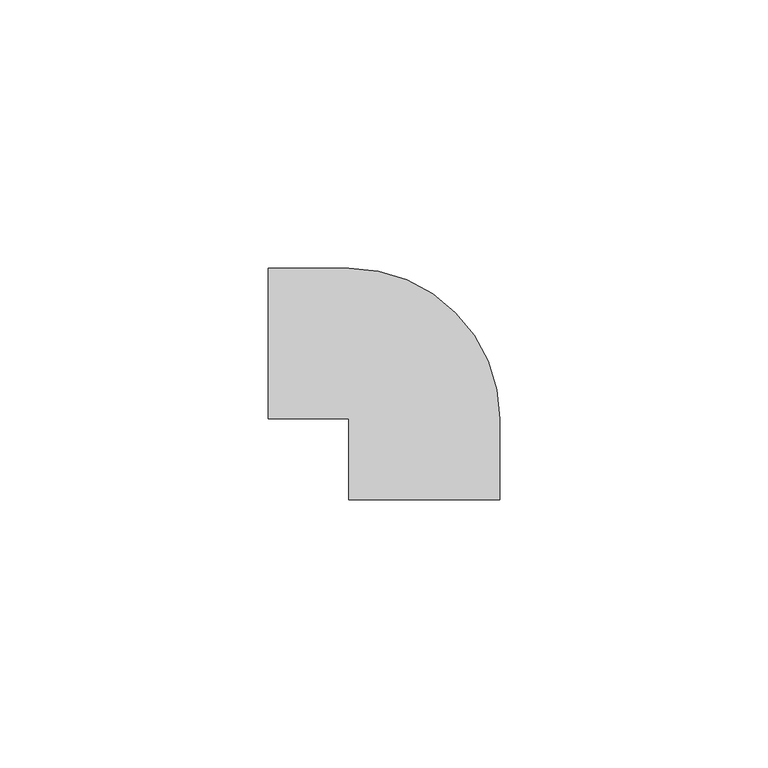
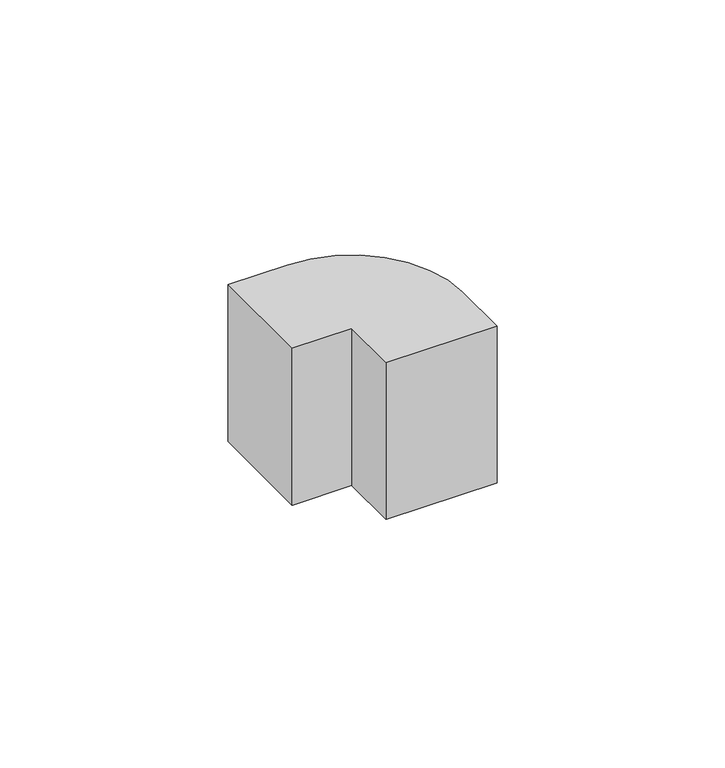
"""IFC4 building model written with IfcOpenShell, lengths in millimetres: proxy geometry, Внешний_угол_КМН : Внешний угол КМН 40х25."""

from ifc_helpers import new_model, si_unit, point, origin, origin_with_axes, origin_2d, place, context, project, spatial, polyline, circle_curve, trimmed, segment, composite_curve, outline, extrude, source, transform, mapped, element, save


def generic_models_74bb6de7(model_context):
    return source(origin(), model_context, "Body", "SweptSolid", [
        extrude(outline(composite_curve([segment(polyline([(-15.0, 0.0), (-15.0, 28.037256), (0.0, 28.037256)]), True, "CONTINUOUS"), segment(trimmed(circle_curve(origin_2d(), 28.037256), [point((0.0, 28.037256))], [point((28.037256, 0.0))], False, "CARTESIAN"), True, "CONTINUOUS"), segment(polyline([(28.037256, 0.0), (28.037256, -15.0), (0.0, -15.0), (0.0, 0.0), (-15.0, 0.0)]), True, "CONTINUOUS")], self_intersect=False)), origin_with_axes(), (0.0, 0.0, 1.0), 41.9770043),
    ])


if __name__ == "__main__":
    model = new_model("IFC4")
    model_context = context("Model", 3, world=origin())
    ifc_project = project(units=[si_unit("LENGTHUNIT", "METRE", prefix="MILLI")], contexts=[model_context])
    site = spatial("IfcSite", under=ifc_project)
    building = spatial("IfcBuilding", under=site)
    placement = place(None, origin())
    generic_models_shape = generic_models_74bb6de7(model_context)
    element("IfcBuildingElementProxy", 1, Name="Внешний_угол_КМН : Внешний угол КМН 40х25", ObjectType="Внешний_угол_КМН : Внешний угол КМН 40х25", at=placement, inside=building, context=model_context, shape_type="MappedRepresentation", body=[
        mapped(generic_models_shape, transform((0.0, 0.0, 0.0), x_axis=(1.0, 0.0, 0.0), y_axis=(0.0, 1.0, 0.0), z_axis=(0.0, 0.0, 1.0))),
    ])
    save(model, "model.ifc")
